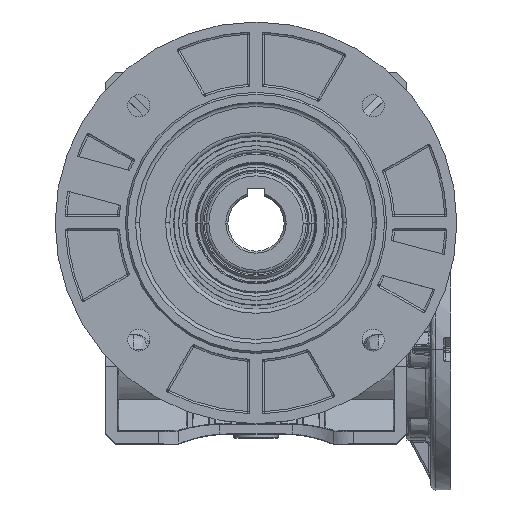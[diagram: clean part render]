
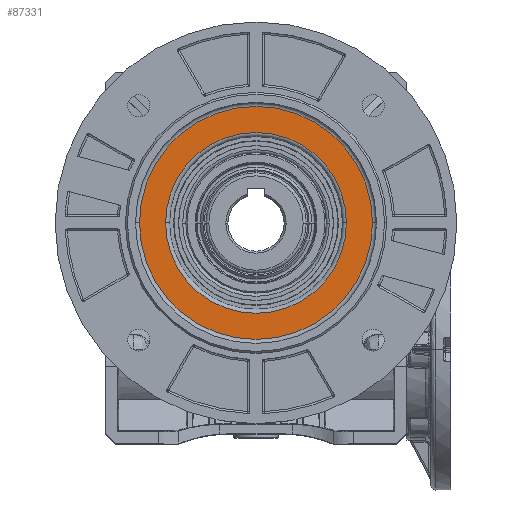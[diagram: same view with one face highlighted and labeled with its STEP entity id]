
A CAD part, top view. The second image highlights one B-rep face of the part: STEP entity #87331.
In plain terms, the highlighted planar face has unit normal (0, 0, 1).
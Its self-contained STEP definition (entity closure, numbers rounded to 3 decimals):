
#2598 = ORIENTED_EDGE ( 'NONE', *, *, #64075, .F. ) ;
#4967 = VERTEX_POINT ( 'NONE', #47202 ) ;
#5410 = ORIENTED_EDGE ( 'NONE', *, *, #33520, .T. ) ;
#9934 = EDGE_LOOP ( 'NONE', ( #51899, #5410 ) ) ;
#15005 = CARTESIAN_POINT ( 'NONE',  ( 0., 0., 95.5 ) ) ;
#16604 = FACE_BOUND ( 'NONE', #117042, .T. ) ;
#17092 = DIRECTION ( 'NONE',  ( 0., 0., 1. ) ) ;
#17274 = PLANE ( 'NONE',  #70450 ) ;
#21547 = ORIENTED_EDGE ( 'NONE', *, *, #115088, .F. ) ;
#26484 = DIRECTION ( 'NONE',  ( 0., 0., 1. ) ) ;
#33520 = EDGE_CURVE ( 'NONE', #87944, #105781, #132251, .T. ) ;
#34035 = VERTEX_POINT ( 'NONE', #130798 ) ;
#34200 = AXIS2_PLACEMENT_3D ( 'NONE', #78827, #17092, #58475 ) ;
#36687 = DIRECTION ( 'NONE',  ( 1., 0., 0. ) ) ;
#37950 = CIRCLE ( 'NONE', #113790, 58. ) ;
#46885 = CARTESIAN_POINT ( 'NONE',  ( 0., 0., 95.5 ) ) ;
#47202 = CARTESIAN_POINT ( 'NONE',  ( -45., 0., 95.5 ) ) ;
#48191 = CARTESIAN_POINT ( 'NONE',  ( 0., 0., 95.5 ) ) ;
#48253 = CARTESIAN_POINT ( 'NONE',  ( 58., 0., 95.5 ) ) ;
#51899 = ORIENTED_EDGE ( 'NONE', *, *, #61718, .T. ) ;
#58475 = DIRECTION ( 'NONE',  ( 1., 0., 0. ) ) ;
#61718 = EDGE_CURVE ( 'NONE', #105781, #87944, #37950, .T. ) ;
#64075 = EDGE_CURVE ( 'NONE', #34035, #4967, #100378, .T. ) ;
#69123 = AXIS2_PLACEMENT_3D ( 'NONE', #46885, #97728, #86873 ) ;
#70450 = AXIS2_PLACEMENT_3D ( 'NONE', #99329, #111565, #110873 ) ;
#72368 = AXIS2_PLACEMENT_3D ( 'NONE', #48191, #26484, #89539 ) ;
#74577 = CARTESIAN_POINT ( 'NONE',  ( -58., 0., 95.5 ) ) ;
#78827 = CARTESIAN_POINT ( 'NONE',  ( 0., 0., 95.5 ) ) ;
#86873 = DIRECTION ( 'NONE',  ( 1., 0., 0. ) ) ;
#87331 = ADVANCED_FACE ( 'NONE', ( #16604, #89839 ), #17274, .T. ) ;
#87944 = VERTEX_POINT ( 'NONE', #74577 ) ;
#89539 = DIRECTION ( 'NONE',  ( 1., 0., 0. ) ) ;
#89839 = FACE_OUTER_BOUND ( 'NONE', #9934, .T. ) ;
#97728 = DIRECTION ( 'NONE',  ( 0., 0., 1. ) ) ;
#99329 = CARTESIAN_POINT ( 'NONE',  ( 58., 0., 95.5 ) ) ;
#100378 = CIRCLE ( 'NONE', #72368, 45. ) ;
#105781 = VERTEX_POINT ( 'NONE', #48253 ) ;
#110873 = DIRECTION ( 'NONE',  ( 1., 0., 0. ) ) ;
#111565 = DIRECTION ( 'NONE',  ( 0., 0., 1. ) ) ;
#113790 = AXIS2_PLACEMENT_3D ( 'NONE', #15005, #129612, #36687 ) ;
#115088 = EDGE_CURVE ( 'NONE', #4967, #34035, #118751, .T. ) ;
#117042 = EDGE_LOOP ( 'NONE', ( #2598, #21547 ) ) ;
#118751 = CIRCLE ( 'NONE', #34200, 45. ) ;
#129612 = DIRECTION ( 'NONE',  ( 0., 0., 1. ) ) ;
#130798 = CARTESIAN_POINT ( 'NONE',  ( 45., 0., 95.5 ) ) ;
#132251 = CIRCLE ( 'NONE', #69123, 58. ) ;
